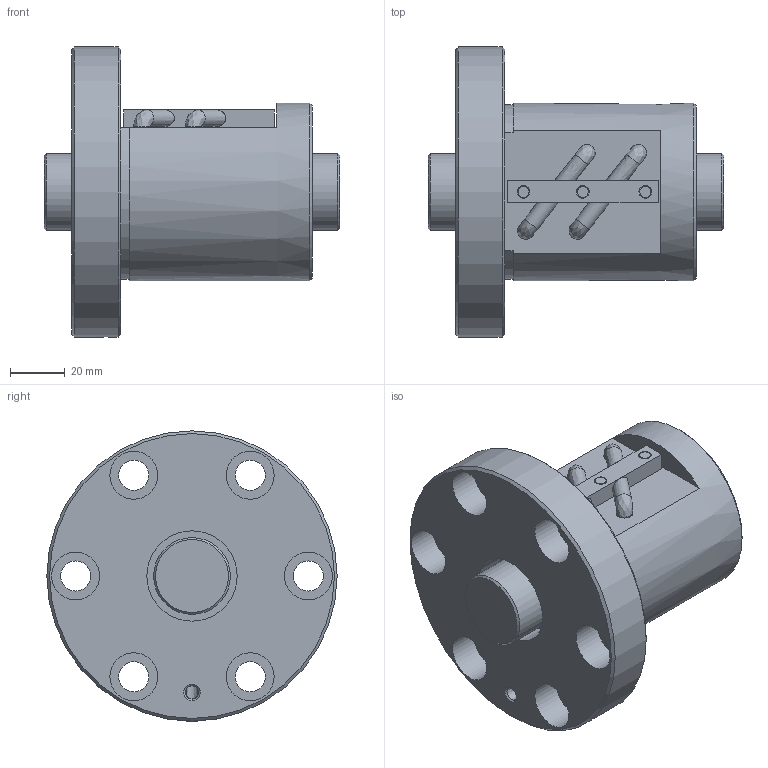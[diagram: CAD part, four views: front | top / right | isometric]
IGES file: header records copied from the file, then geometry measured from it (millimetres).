
Start section: Data from Parasolid IGES Translator 26.0.171, Copyright(c) 2006 Siemens PLM Software. All Rights Reserved.
Global section: file name: BIF2810V-3RRG0+108LC0_000.igs; native system: By Siemens PLM Incorporated; preprocessor: XPlus GENERIC/IGES 26.0.171; author: Noname; organization: Noname; date: 20240715.081823; units: millimetre
Bounding box: 108 x 106 x 106 mm (x, y, z)
Surface area: 61924 mm2 (no closed solid volume)
Topology: 0 solids, 0 shells, 99 faces, 464 edges, 428 vertices
Faces by surface type: revolution 58, extrusion 41
